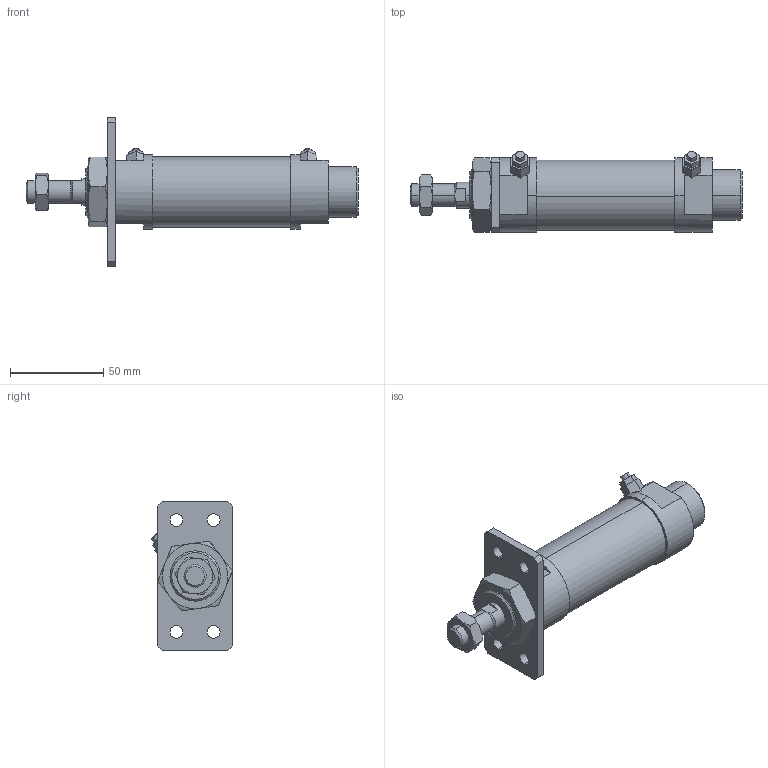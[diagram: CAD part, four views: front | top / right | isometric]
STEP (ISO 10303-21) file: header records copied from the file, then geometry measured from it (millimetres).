
FILE_DESCRIPTION (( 'STEP AP203' ), '1' );
FILE_NAME ('JG2-32-25-A.STEP', '2016-04-19T00:49:36', ( '' ), ( '' ), 'SwSTEP 2.0', 'SolidWorks 2014', '' );
FILE_SCHEMA (( 'CONFIG_CONTROL_DESIGN' ));
Length unit declared in the file: millimetre
Products named in the file (7): M12x1.25-7mm; JG2-32-25-A; M27x2-10mm; JG2-32B; JG2-32A; 32-25; J#2-32-A
Assembly tree (6 placements, depth 2):
  JG2-32-25-A
    JG2-32B
    32-25
    JG2-32A
    M12x1.25-7mm
    M27x2-10mm
    J#2-32-A
Bounding box: 178 x 43.34 x 80 mm (x, y, z)
Volume: 168794.2 mm3; surface area: 37563.8 mm2
Topology: 6 solids, 6 shells, 149 faces, 352 edges, 220 vertices
Faces by surface type: plane 77, cylinder 36, torus 24, cone 12
Entity records: 5453 total; most frequent: CARTESIAN_POINT 1318, DIRECTION 714, ORIENTED_EDGE 696, EDGE_CURVE 348, AXIS2_PLACEMENT_3D 272, VERTEX_POINT 220, EDGE_LOOP 172, LINE 170
